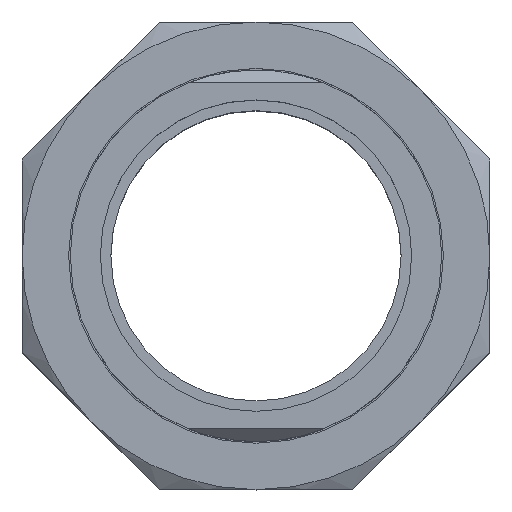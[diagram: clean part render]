
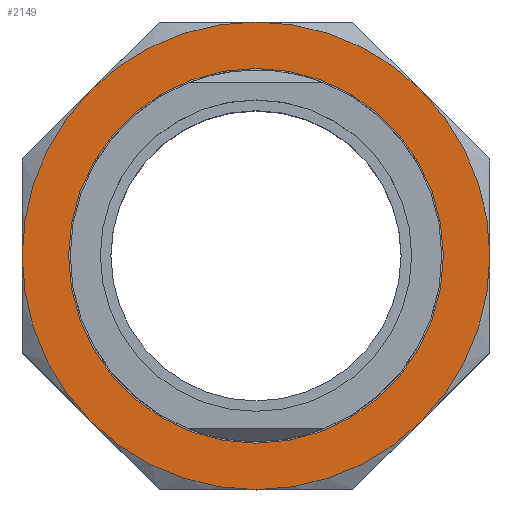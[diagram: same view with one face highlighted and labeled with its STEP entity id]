
A CAD part, top view. The second image highlights one B-rep face of the part: STEP entity #2149.
In plain terms, the highlighted planar face has unit normal (0, 0, 1).
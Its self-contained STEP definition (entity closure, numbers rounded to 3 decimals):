
#150 = CARTESIAN_POINT ( 'NONE',  ( 29.25, 0., 15. ) ) ;
#496 = VERTEX_POINT ( 'NONE', #150 ) ;
#511 = VERTEX_POINT ( 'NONE', #1514 ) ;
#524 = EDGE_CURVE ( 'NONE', #511, #496, #1522, .T. ) ;
#982 = CARTESIAN_POINT ( 'NONE',  ( 0., 0., 15. ) ) ;
#983 = DIRECTION ( 'NONE',  ( 0., 0., 1. ) ) ;
#984 = DIRECTION ( 'NONE',  ( 1., 0., 0. ) ) ;
#987 = AXIS2_PLACEMENT_3D ( 'NONE', #982, #983, #984 ) ;
#1005 = CIRCLE ( 'NONE', #987, 36.5 ) ;
#1020 = CARTESIAN_POINT ( 'NONE',  ( 25.809, -25.809, 15. ) ) ;
#1026 = CARTESIAN_POINT ( 'NONE',  ( 0., -36.5, 15. ) ) ;
#1040 = DIRECTION ( 'NONE',  ( 1., 0., 0. ) ) ;
#1041 = DIRECTION ( 'NONE',  ( 0., 0., 1. ) ) ;
#1043 = CIRCLE ( 'NONE', #1046, 36.5 ) ;
#1045 = CARTESIAN_POINT ( 'NONE',  ( 0., 0., 15. ) ) ;
#1046 = AXIS2_PLACEMENT_3D ( 'NONE', #1045, #1041, #1040 ) ;
#1055 = DIRECTION ( 'NONE',  ( 1., 0., 0. ) ) ;
#1056 = DIRECTION ( 'NONE',  ( 0., 0., 1. ) ) ;
#1057 = CARTESIAN_POINT ( 'NONE',  ( 0., 0., 15. ) ) ;
#1058 = AXIS2_PLACEMENT_3D ( 'NONE', #1057, #1056, #1055 ) ;
#1059 = CIRCLE ( 'NONE', #1058, 36.5 ) ;
#1070 = CARTESIAN_POINT ( 'NONE',  ( 25.809, 25.809, 15. ) ) ;
#1293 = DIRECTION ( 'NONE',  ( 1., 0., 0. ) ) ;
#1379 = CARTESIAN_POINT ( 'NONE',  ( 0., 0., 15. ) ) ;
#1389 = DIRECTION ( 'NONE',  ( 0., 0., 1. ) ) ;
#1390 = CARTESIAN_POINT ( 'NONE',  ( 0., 0., 15. ) ) ;
#1391 = AXIS2_PLACEMENT_3D ( 'NONE', #1390, #1389, #1293 ) ;
#1392 = CIRCLE ( 'NONE', #1391, 36.5 ) ;
#1398 = CIRCLE ( 'NONE', #1413, 36.5 ) ;
#1399 = CIRCLE ( 'NONE', #1400, 36.5 ) ;
#1400 = AXIS2_PLACEMENT_3D ( 'NONE', #1408, #1412, #1409 ) ;
#1408 = CARTESIAN_POINT ( 'NONE',  ( 0., 0., 15. ) ) ;
#1409 = DIRECTION ( 'NONE',  ( 1., 0., 0. ) ) ;
#1412 = DIRECTION ( 'NONE',  ( 0., 0., 1. ) ) ;
#1413 = AXIS2_PLACEMENT_3D ( 'NONE', #1379, #1443, #1441 ) ;
#1418 = CARTESIAN_POINT ( 'NONE',  ( -25.809, -25.809, 15. ) ) ;
#1441 = DIRECTION ( 'NONE',  ( 1., 0., 0. ) ) ;
#1443 = DIRECTION ( 'NONE',  ( 0., 0., 1. ) ) ;
#1468 = CIRCLE ( 'NONE', #1478, 36.5 ) ;
#1475 = DIRECTION ( 'NONE',  ( 1., 0., 0. ) ) ;
#1476 = DIRECTION ( 'NONE',  ( 0., 0., 1. ) ) ;
#1477 = CARTESIAN_POINT ( 'NONE',  ( 0., 0., 15. ) ) ;
#1478 = AXIS2_PLACEMENT_3D ( 'NONE', #1477, #1476, #1475 ) ;
#1495 = CARTESIAN_POINT ( 'NONE',  ( 0., 36.5, 15. ) ) ;
#1514 = CARTESIAN_POINT ( 'NONE',  ( -29.25, 0., 15. ) ) ;
#1522 = CIRCLE ( 'NONE', #1532, 29.25 ) ;
#1529 = DIRECTION ( 'NONE',  ( 1., 0., 0. ) ) ;
#1530 = DIRECTION ( 'NONE',  ( 0., 0., 1. ) ) ;
#1531 = CARTESIAN_POINT ( 'NONE',  ( 0., 0., 15. ) ) ;
#1532 = AXIS2_PLACEMENT_3D ( 'NONE', #1531, #1530, #1529 ) ;
#1567 = CARTESIAN_POINT ( 'NONE',  ( -36.5, 0., 15. ) ) ;
#1582 = CARTESIAN_POINT ( 'NONE',  ( -25.809, 25.809, 15. ) ) ;
#1708 = PLANE ( 'NONE',  #1710 ) ;
#1710 = AXIS2_PLACEMENT_3D ( 'NONE', #1720, #1719, #1718 ) ;
#1711 = FACE_OUTER_BOUND ( 'NONE', #2166, .T. ) ;
#1712 = FACE_BOUND ( 'NONE', #2104, .T. ) ;
#1718 = DIRECTION ( 'NONE',  ( -1., 0., 0. ) ) ;
#1719 = DIRECTION ( 'NONE',  ( 0., 0., -1. ) ) ;
#1720 = CARTESIAN_POINT ( 'NONE',  ( 0., 36.5, 15. ) ) ;
#1750 = AXIS2_PLACEMENT_3D ( 'NONE', #1754, #1753, #1752 ) ;
#1751 = CIRCLE ( 'NONE', #1750, 29.25 ) ;
#1752 = DIRECTION ( 'NONE',  ( 1., 0., 0. ) ) ;
#1753 = DIRECTION ( 'NONE',  ( 0., 0., 1. ) ) ;
#1754 = CARTESIAN_POINT ( 'NONE',  ( 0., 0., 15. ) ) ;
#1986 = EDGE_CURVE ( 'NONE', #2054, #1993, #1392, .T. ) ;
#1987 = EDGE_CURVE ( 'NONE', #1993, #2456, #1399, .T. ) ;
#1993 = VERTEX_POINT ( 'NONE', #1418 ) ;
#2020 = CARTESIAN_POINT ( 'NONE',  ( 36.5, 0., 15. ) ) ;
#2036 = EDGE_CURVE ( 'NONE', #2473, #2040, #1468, .T. ) ;
#2040 = VERTEX_POINT ( 'NONE', #1495 ) ;
#2048 = EDGE_CURVE ( 'NONE', #2040, #2050, #1398, .T. ) ;
#2050 = VERTEX_POINT ( 'NONE', #1582 ) ;
#2054 = VERTEX_POINT ( 'NONE', #1567 ) ;
#2104 = EDGE_LOOP ( 'NONE', ( #2174, #2165 ) ) ;
#2112 = ORIENTED_EDGE ( 'NONE', *, *, #2461, .T. ) ;
#2113 = ORIENTED_EDGE ( 'NONE', *, *, #1986, .T. ) ;
#2114 = ORIENTED_EDGE ( 'NONE', *, *, #1987, .T. ) ;
#2115 = ORIENTED_EDGE ( 'NONE', *, *, #2036, .T. ) ;
#2149 = ADVANCED_FACE ( 'NONE', ( #1712, #1711 ), #1708, .F. ) ;
#2156 = ORIENTED_EDGE ( 'NONE', *, *, #2410, .T. ) ;
#2158 = EDGE_CURVE ( 'NONE', #496, #511, #1751, .T. ) ;
#2159 = ORIENTED_EDGE ( 'NONE', *, *, #2048, .T. ) ;
#2160 = ORIENTED_EDGE ( 'NONE', *, *, #2453, .T. ) ;
#2161 = ORIENTED_EDGE ( 'NONE', *, *, #2419, .T. ) ;
#2165 = ORIENTED_EDGE ( 'NONE', *, *, #524, .F. ) ;
#2166 = EDGE_LOOP ( 'NONE', ( #2156, #2115, #2159, #2112, #2113, #2114, #2160, #2161 ) ) ;
#2174 = ORIENTED_EDGE ( 'NONE', *, *, #2158, .F. ) ;
#2282 = DIRECTION ( 'NONE',  ( 1., 0., 0. ) ) ;
#2283 = DIRECTION ( 'NONE',  ( 0., 0., 1. ) ) ;
#2284 = CARTESIAN_POINT ( 'NONE',  ( 0., 0., 15. ) ) ;
#2285 = AXIS2_PLACEMENT_3D ( 'NONE', #2284, #2283, #2282 ) ;
#2295 = CIRCLE ( 'NONE', #2285, 36.5 ) ;
#2399 = VERTEX_POINT ( 'NONE', #2020 ) ;
#2410 = EDGE_CURVE ( 'NONE', #2399, #2473, #2295, .T. ) ;
#2419 = EDGE_CURVE ( 'NONE', #2451, #2399, #1059, .T. ) ;
#2451 = VERTEX_POINT ( 'NONE', #1020 ) ;
#2453 = EDGE_CURVE ( 'NONE', #2456, #2451, #1005, .T. ) ;
#2456 = VERTEX_POINT ( 'NONE', #1026 ) ;
#2461 = EDGE_CURVE ( 'NONE', #2050, #2054, #1043, .T. ) ;
#2473 = VERTEX_POINT ( 'NONE', #1070 ) ;
